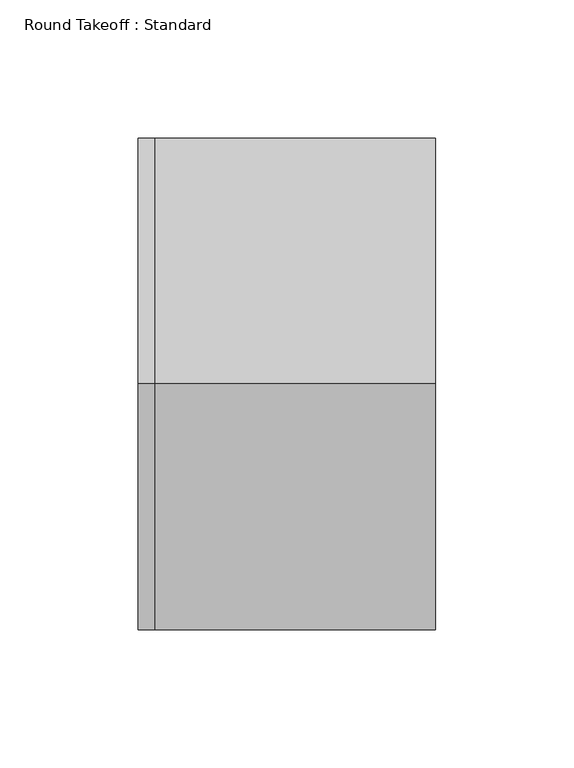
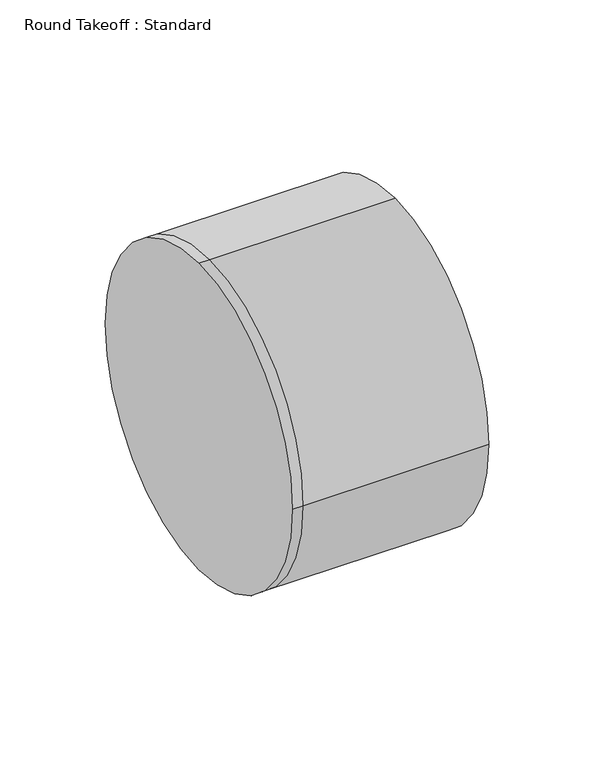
"""IFC4 building model written with IfcOpenShell, lengths in millimetres: duct fitting geometry, Round Takeoff : Standard."""

from ifc_helpers import new_model, si_unit, frame, origin, place, context, project, spatial, circle_curve, source, transform, mapped, element, save
from ifc_brep_helpers import plane_surface, cylinder_surface, advanced_brep


def round_takeoff_standard_bc61291d(model_context):
    return source(origin(), model_context, "Body", "AdvancedBrep", [
        advanced_brep(
        [(101.6, 0.0, 88.9), (101.6, -88.9, 0.0), (101.6, 0.0, -88.9), (101.6, 88.9, 0.0), (0.0, 0.0, 88.9), (0.0, -88.9, 0.0), (0.0, 0.0, -88.9), (0.0, 88.9, 0.0), (-6.096, 0.0, 88.9), (-6.096, 88.9, 0.0), (-6.096, 0.0, -88.9), (-6.096, -88.9, 0.0)],
        [
            (0, 1, circle_curve(frame((101.6, 0.0, 0.0), z_axis=(1.0, 0.0, 0.0), x_axis=(0.0, -1.0, 0.0)), 88.9)),
            (1, 2, circle_curve(frame((101.6, 0.0, 0.0), z_axis=(1.0, 0.0, 0.0), x_axis=(0.0, -1.0, 0.0)), 88.9)),
            (2, 3, circle_curve(frame((101.6, 0.0, 0.0), z_axis=(1.0, 0.0, 0.0), x_axis=(0.0, -1.0, 0.0)), 88.9)),
            (3, 0, circle_curve(frame((101.6, 0.0, 0.0), z_axis=(1.0, 0.0, 0.0), x_axis=(0.0, -1.0, 0.0)), 88.9)),
            (0, 4),
            (4, 5, circle_curve(frame((0.0, 0.0, 0.0), z_axis=(1.0, 0.0, 0.0), x_axis=(0.0, -1.0, 0.0)), 88.9)),
            (5, 1),
            (5, 6, circle_curve(frame((0.0, 0.0, 0.0), z_axis=(1.0, 0.0, 0.0), x_axis=(0.0, -1.0, 0.0)), 88.9)),
            (6, 2),
            (6, 7, circle_curve(frame((0.0, 0.0, 0.0), z_axis=(1.0, 0.0, 0.0), x_axis=(0.0, -1.0, 0.0)), 88.9)),
            (7, 3),
            (7, 4, circle_curve(frame((0.0, 0.0, 0.0), z_axis=(1.0, 0.0, 0.0), x_axis=(0.0, -1.0, 0.0)), 88.9)),
            (8, 9, circle_curve(frame((-6.096, 0.0, 0.0), z_axis=(-1.0, 0.0, 0.0), x_axis=(0.0, -1.0, 0.0)), 88.9)),
            (9, 10, circle_curve(frame((-6.096, 0.0, 0.0), z_axis=(-1.0, 0.0, 0.0), x_axis=(0.0, -1.0, 0.0)), 88.9)),
            (10, 11, circle_curve(frame((-6.096, 0.0, 0.0), z_axis=(-1.0, 0.0, 0.0), x_axis=(0.0, -1.0, 0.0)), 88.9)),
            (11, 8, circle_curve(frame((-6.096, 0.0, 0.0), z_axis=(-1.0, 0.0, 0.0), x_axis=(0.0, -1.0, 0.0)), 88.9)),
            (11, 5),
            (4, 8),
            (10, 6),
            (9, 7),
        ],
        [
            plane_surface(frame((101.6, 0.0, 0.0), z_axis=(1.0, 0.0, 0.0), x_axis=(0.0, 0.0, 1.0))),
            cylinder_surface(frame((0.0, 0.0, 0.0), z_axis=(-1.0, 0.0, 0.0), x_axis=(0.0, -1.0, 0.0)), 88.9),
            plane_surface(frame((-6.096, 0.0, 0.0), z_axis=(-1.0, 0.0, 0.0), x_axis=(0.0, 0.0, 1.0))),
            cylinder_surface(frame((-6.096, 0.0, 0.0), z_axis=(-1.0, 0.0, 0.0), x_axis=(0.0, -1.0, 0.0)), 88.9),
        ],
        [
            (0, [[1, 2, 3, 4]]),
            (1, [[5, 6, 7, -1]]),
            (1, [[-7, 8, 9, -2]]),
            (1, [[-9, 10, 11, -3]]),
            (1, [[-11, 12, -5, -4]]),
            (2, [[13, 14, 15, 16]]),
            (3, [[17, -6, 18, -16]]),
            (3, [[19, -8, -17, -15]]),
            (3, [[20, -10, -19, -14]]),
            (3, [[-18, -12, -20, -13]]),
        ],
    ),
    ])


if __name__ == "__main__":
    model = new_model("IFC4")
    model_context = context("Model", 3, world=origin())
    ifc_project = project(units=[si_unit("LENGTHUNIT", "METRE", prefix="MILLI")], contexts=[model_context])
    site = spatial("IfcSite", under=ifc_project)
    building = spatial("IfcBuilding", under=site)
    placement = place(None, origin())
    round_takeoff_standard_shape = round_takeoff_standard_bc61291d(model_context)
    element("IfcDuctFitting", 1, ObjectType="Round Takeoff : Standard", at=placement, inside=building, context=model_context, shape_type="MappedRepresentation", body=[
        mapped(round_takeoff_standard_shape, transform((0.0, 0.0, 0.0), x_axis=(1.0, 0.0, 0.0), y_axis=(0.0, 1.0, 0.0), z_axis=(0.0, 0.0, 1.0))),
    ])
    save(model, "model.ifc")
